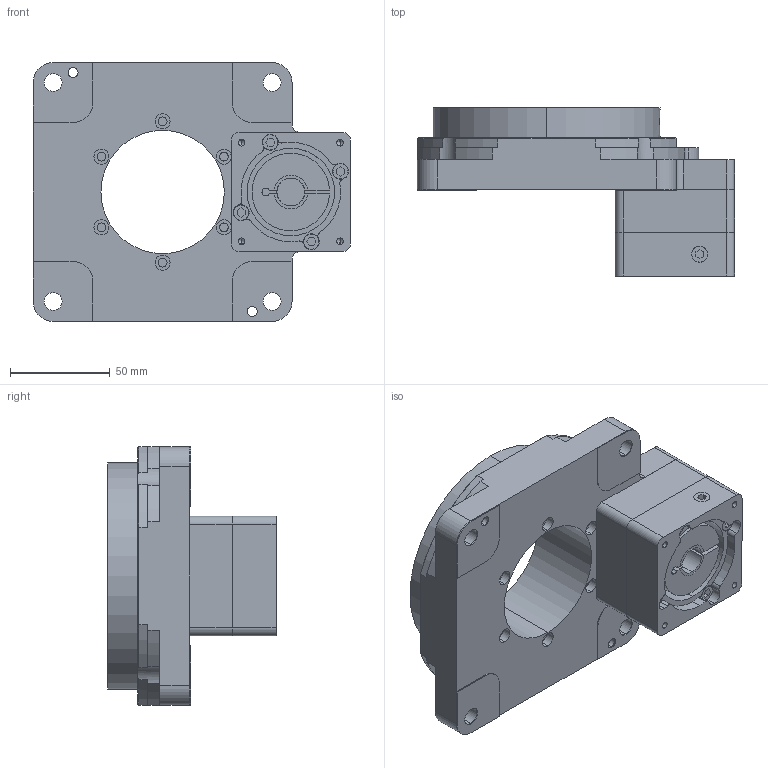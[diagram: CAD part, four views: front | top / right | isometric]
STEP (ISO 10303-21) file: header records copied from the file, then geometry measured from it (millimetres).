
FILE_DESCRIPTION (( 'STEP AP214' ), '1' );
FILE_NAME ('马拉力中空旋转平台MAK130-10比(400W伺服接口.STEP', '2024-05-09T11:05:10', ( '' ), ( '' ), 'SwSTEP 2.0', 'SolidWorks 2010', '' );
FILE_SCHEMA (( 'AUTOMOTIVE_DESIGN' ));
Length unit declared in the file: millimetre
Products named in the file (1): 马拉力中空旋转平台MAK130-10比(400W伺服接口
Bounding box: 159.5 x 84.5 x 130 mm (x, y, z)
Volume: 586810.3 mm3; surface area: 101964.4 mm2
Topology: 7 solids, 7 shells, 477 faces, 1240 edges, 800 vertices
Faces by surface type: cylinder 198, plane 152, bspline 87, cone 40
Entity records: 20135 total; most frequent: CARTESIAN_POINT 7621, ORIENTED_EDGE 2416, DIRECTION 2220, EDGE_CURVE 1208, AXIS2_PLACEMENT_3D 819, VERTEX_POINT 800, LINE 582, VECTOR 582
